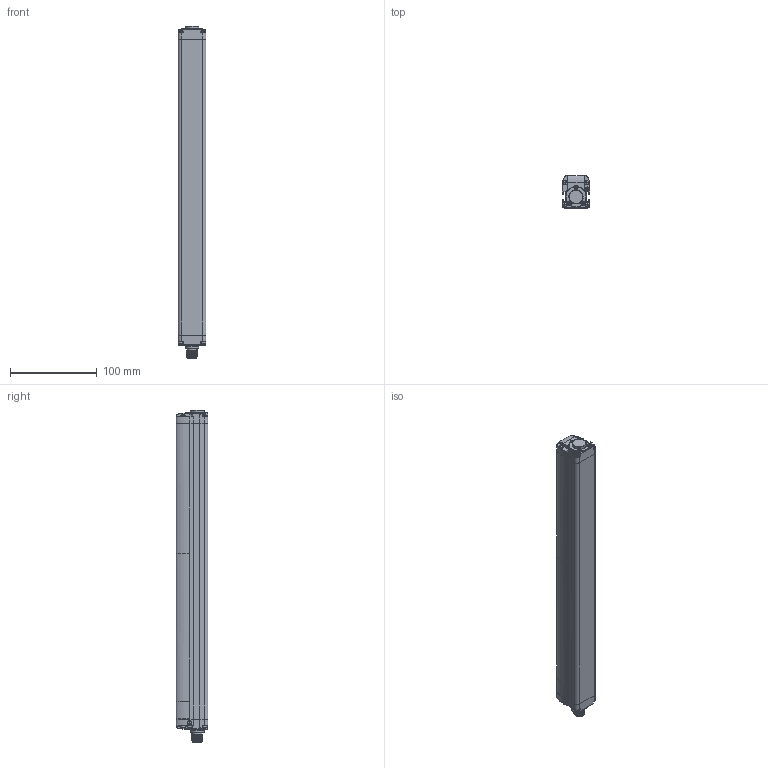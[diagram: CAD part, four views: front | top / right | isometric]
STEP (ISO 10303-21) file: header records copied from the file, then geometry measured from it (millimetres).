
FILE_DESCRIPTION(/* description */ (''),/* implementation_level */ '2;1');
FILE_NAME(/* name */ 'DSD-0158.stp',/* time_stamp */ '2020-07-16T09:49:44+02:00',/* author */ (''),/* organization */ (''),/* preprocessor_version */ 'ST-DEVELOPER v16.7',/* originating_system */ 'SIEMENS PLM Software NX 12.0',/* authorisation */ '');
FILE_SCHEMA (('AUTOMOTIVE_DESIGN { 1 0 10303 214 3 1 1 1 }'));
Products named in the file (1): AP025806_00_1-DSD-0158
Bounding box: 32.3 x 36.9 x 383.24 mm (x, y, z)
Volume: 352973.9 mm3; surface area: 93194.5 mm2
Topology: 12 solids, 716 shells, 1630 faces, 5098 edges, 4008 vertices
Faces by surface type: cylinder 608, bspline 556, plane 378, sphere 51, cone 29, torus 8
Full cylindrical faces by diameter (mm): 1 x10, 1.5 x6, 2 x6, 2.05 x4, 2.5 x12, 2.7 x10, 2.9 x6, 3 x12, 3.4 x6, 3.6 x12, 4.7 x2, 5 x10, 5.3 x2, 7.5 x1, 8 x1, 8.2 x1, 9.3 x1, 9.5 x1, 9.55 x1, 10.5 x1, 11 x2, 12 x12, 13.97 x1, 14.3 x1, 16 x2
Entity records: 84077 total; most frequent: CARTESIAN_POINT 35664, ORIENTED_EDGE 6906, DIRECTION 5953, EDGE_CURVE 4879, VERTEX_POINT 4000, AXIS2_PLACEMENT_3D 2332, EDGE_LOOP 1863, PRESENTATION_STYLE_ASSIGNMENT 1634
